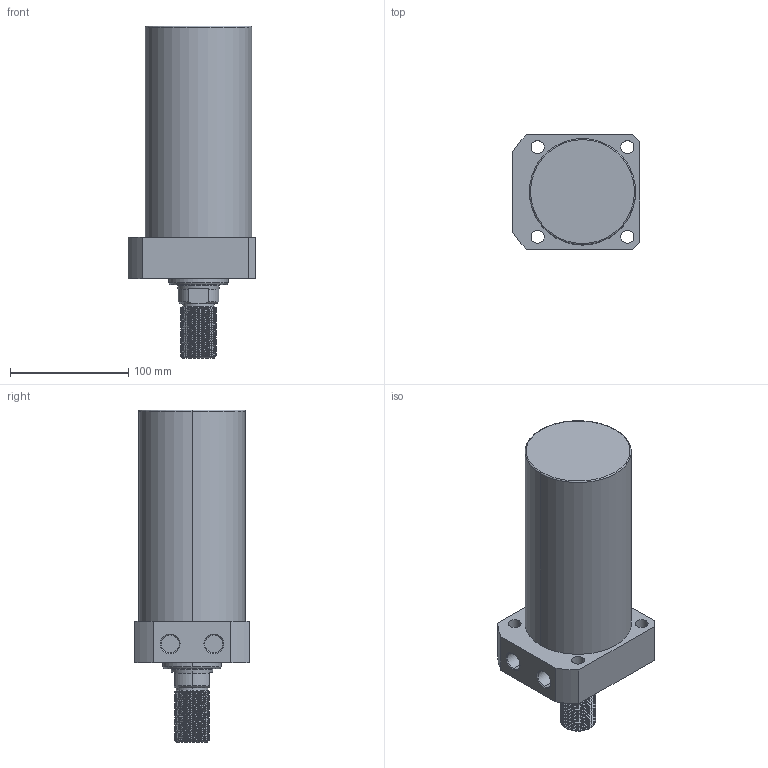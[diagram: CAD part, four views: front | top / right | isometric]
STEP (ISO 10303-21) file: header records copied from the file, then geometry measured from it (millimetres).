
FILE_DESCRIPTION (( 'STEP AP214' ), '1' );
FILE_NAME ('CLLR-090CT-135.STEP', '2020-01-10T02:44:23', ( 'Windows' ), ( 'Microsoft' ), 'SwSTEP 2.0', 'SolidWorks 2015', '' );
FILE_SCHEMA (( 'AUTOMOTIVE_DESIGN' ));
Length unit declared in the file: millimetre
Products named in the file (1): CLLR-090CT-135
Bounding box: 108 x 97 x 281 mm (x, y, z)
Volume: 1532093.4 mm3; surface area: 100146.3 mm2
Topology: 1 solids, 1 shells, 125 faces, 331 edges, 216 vertices
Faces by surface type: cylinder 85, plane 20, cone 16, torus 2, bspline 2
Entity records: 7095 total; most frequent: CARTESIAN_POINT 4199, ORIENTED_EDGE 662, DIRECTION 530, EDGE_CURVE 331, VERTEX_POINT 216, AXIS2_PLACEMENT_3D 204, EDGE_LOOP 141, ADVANCED_FACE 125
